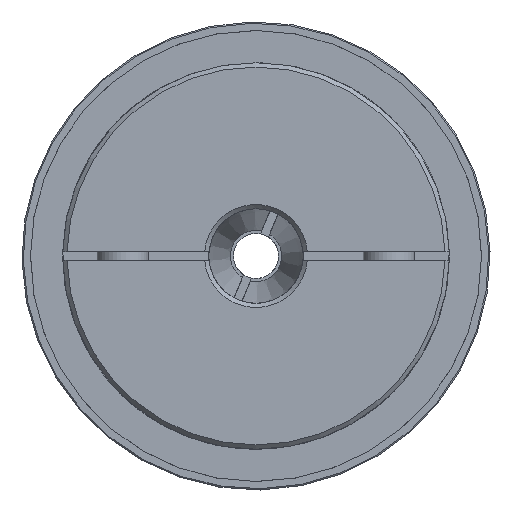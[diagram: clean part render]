
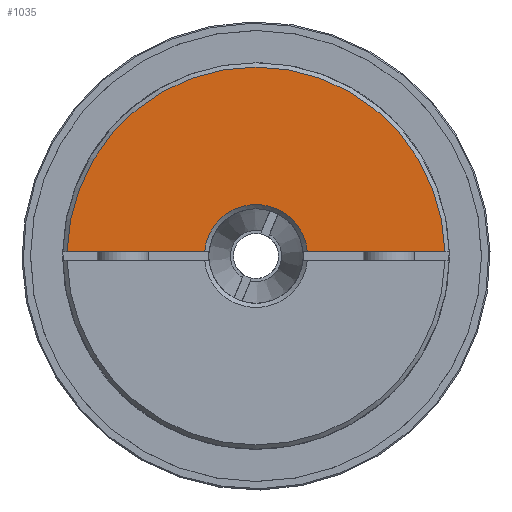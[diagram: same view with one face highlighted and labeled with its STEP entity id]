
A CAD part, left-side view. The second image highlights one B-rep face of the part: STEP entity #1035.
In plain terms, the highlighted planar face has unit normal (-1, 0, 0) as drawn and (1, 0, 0) by its records, which use the part's own axes.
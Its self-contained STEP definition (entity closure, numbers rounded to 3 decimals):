
#1035 = ADVANCED_FACE( '', ( #1922 ), #1923, .T. );
#1922 = FACE_OUTER_BOUND( '', #2904, .T. );
#1923 = PLANE( '', #2905 );
#2904 = EDGE_LOOP( '', ( #4285, #4286, #4287, #4288 ) );
#2905 = AXIS2_PLACEMENT_3D( '', #4289, #4290, #4291 );
#4285 = ORIENTED_EDGE( '', *, *, #5219, .F. );
#4286 = ORIENTED_EDGE( '', *, *, #5334, .T. );
#4287 = ORIENTED_EDGE( '', *, *, #5370, .F. );
#4288 = ORIENTED_EDGE( '', *, *, #5382, .T. );
#4289 = CARTESIAN_POINT( '', ( 41., 0., 45. ) );
#4290 = DIRECTION( '', ( 1., 0., 0. ) );
#4291 = DIRECTION( '', ( 0., 0., -1. ) );
#5219 = EDGE_CURVE( '', #6382, #6384, #6385, .T. );
#5334 = EDGE_CURVE( '', #6382, #6549, #6552, .T. );
#5370 = EDGE_CURVE( '', #6601, #6549, #6602, .T. );
#5382 = EDGE_CURVE( '', #6601, #6384, #6615, .F. );
#6382 = VERTEX_POINT( '', #7921 );
#6384 = VERTEX_POINT( '', #7926 );
#6385 = LINE( '', #7927, #7928 );
#6549 = VERTEX_POINT( '', #8392 );
#6552 = CIRCLE( '', #8398, 44. );
#6601 = VERTEX_POINT( '', #8590 );
#6602 = LINE( '', #8591, #8592 );
#6615 = CIRCLE( '', #8610, 12. );
#7921 = CARTESIAN_POINT( '', ( 41., 43.989, 1. ) );
#7926 = CARTESIAN_POINT( '', ( 41., 11.958, 1. ) );
#7927 = CARTESIAN_POINT( '', ( 41., 0., 1. ) );
#7928 = VECTOR( '', #9554, 1000. );
#8392 = CARTESIAN_POINT( '', ( 41., -43.989, 1. ) );
#8398 = AXIS2_PLACEMENT_3D( '', #9707, #9708, #9709 );
#8590 = CARTESIAN_POINT( '', ( 41., -11.958, 1. ) );
#8591 = CARTESIAN_POINT( '', ( 41., 0., 1. ) );
#8592 = VECTOR( '', #9749, 1000. );
#8610 = AXIS2_PLACEMENT_3D( '', #9767, #9768, #9769 );
#9554 = DIRECTION( '', ( 0., -1., 0. ) );
#9707 = CARTESIAN_POINT( '', ( 41., 0., 0. ) );
#9708 = DIRECTION( '', ( 1., 0., 0. ) );
#9709 = DIRECTION( '', ( 0., 0., -1. ) );
#9749 = DIRECTION( '', ( 0., -1., 0. ) );
#9767 = CARTESIAN_POINT( '', ( 41., 0., 0. ) );
#9768 = DIRECTION( '', ( 1., 0., 0. ) );
#9769 = DIRECTION( '', ( 0., 0., -1. ) );
